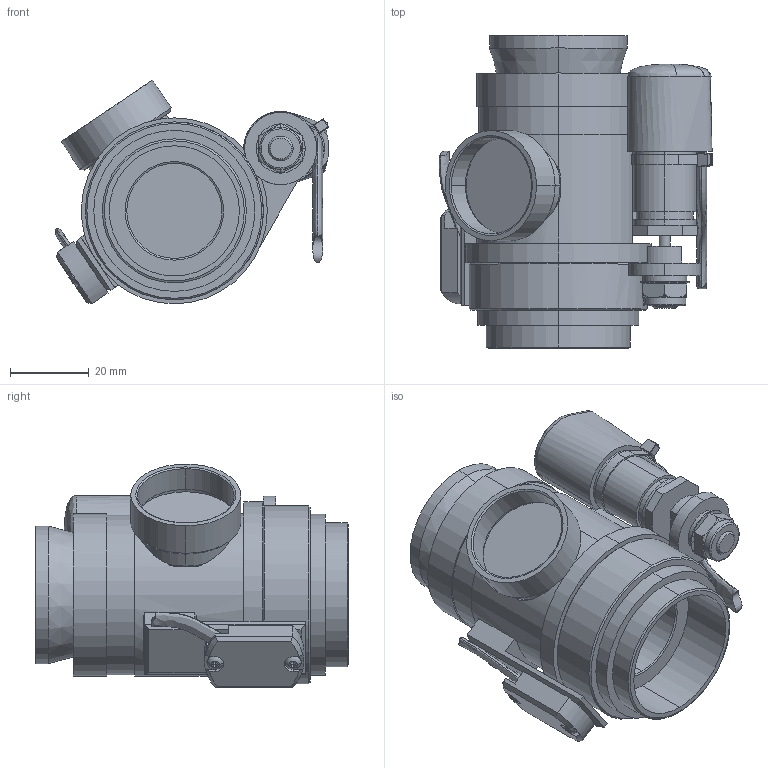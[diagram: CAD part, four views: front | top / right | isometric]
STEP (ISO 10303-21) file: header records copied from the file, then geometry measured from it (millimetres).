
FILE_DESCRIPTION (( 'STEP AP203' ), '1' );
FILE_NAME ('45-04-30-000 OUTLINE.STEP', '2020-08-17T19:20:57', ( '' ), ( '' ), 'SwSTEP 2.0', 'SolidWorks 2018', '' );
FILE_SCHEMA (( 'CONFIG_CONTROL_DESIGN' ));
Length unit declared in the file: inch
Products named in the file (1): 45-04-30-000 OUTLINE
Bounding box: 69.42 x 79.38 x 56.77 mm (x, y, z)
Volume: 101197 mm3; surface area: 28135.1 mm2
Topology: 3 solids, 5 shells, 320 faces, 767 edges, 472 vertices
Faces by surface type: plane 149, cylinder 103, cone 38, bspline 14, torus 12, sphere 4
Entity records: 10320 total; most frequent: CARTESIAN_POINT 2730, DIRECTION 1632, ORIENTED_EDGE 1514, EDGE_CURVE 757, AXIS2_PLACEMENT_3D 615, VERTEX_POINT 472, VECTOR 402, LINE 402
